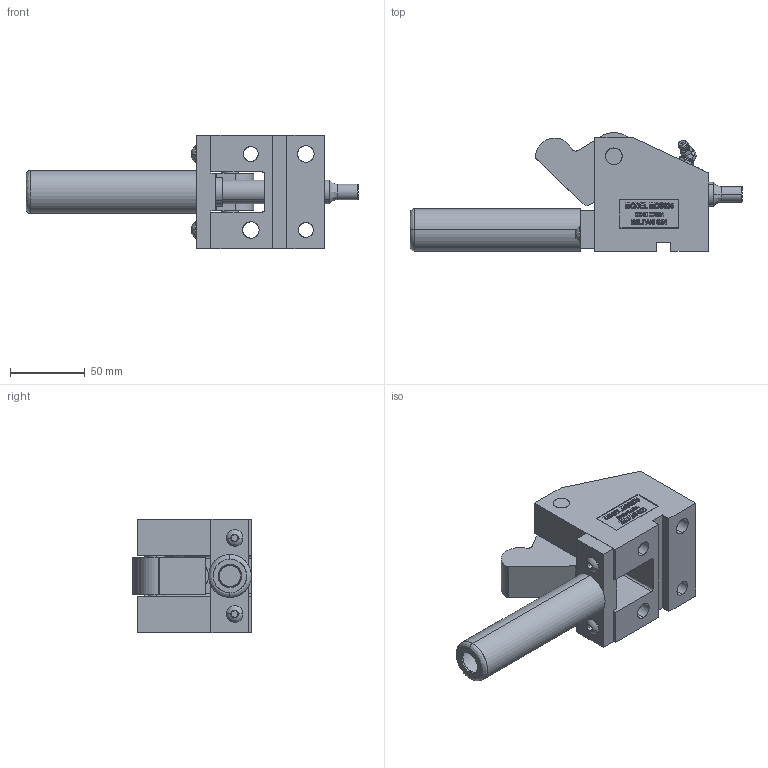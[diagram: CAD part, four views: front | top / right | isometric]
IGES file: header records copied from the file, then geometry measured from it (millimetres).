
Start section: SolidWorks IGES file using analytic representation for surfaces
Global section: file name: Y:\3\MOS62545\OPEN\MOS62545-O.IGS; native system: SolidWorks 2006 by SolidWorks Corporation; preprocessor: SolidWorks 2006 by SolidWorks Corporation; author: Jim; date: 090127.095819; units: inch
Bounding box: 222.12 x 79.37 x 76.2 mm (x, y, z)
Surface area: 95106 mm2 (no closed solid volume)
Topology: 0 solids, 0 shells, 604 faces, 7771 edges, 7769 vertices
Faces by surface type: bspline 484, revolution 120
